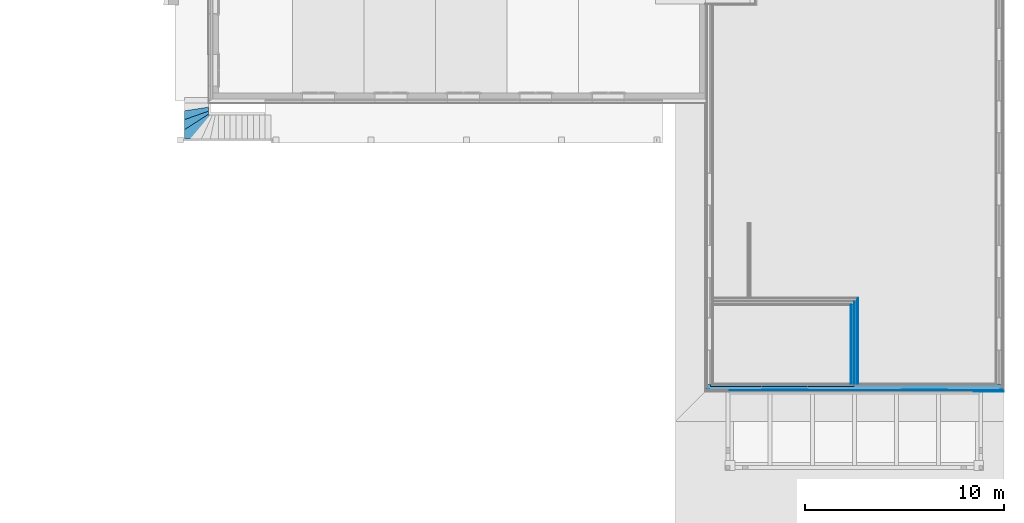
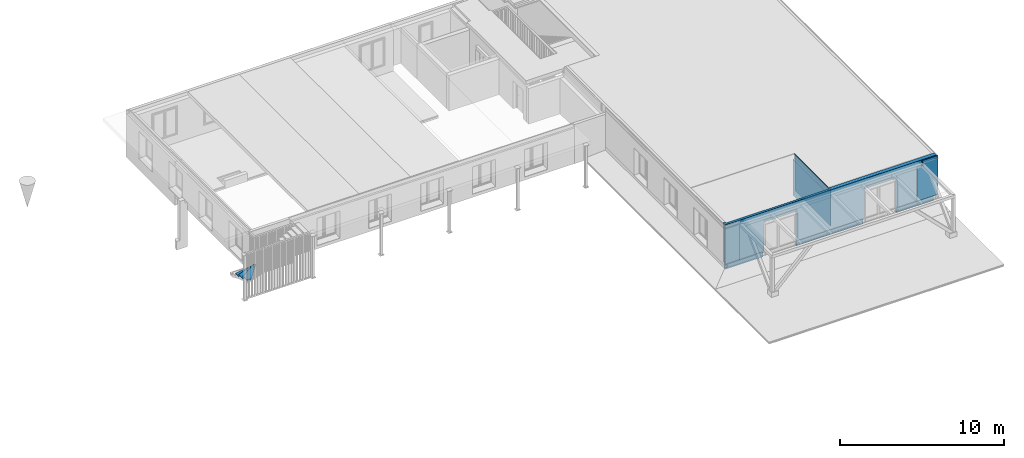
# One storey, part 10 of 20: 18 building element parts, 2 openings, 5 elements without a shape of their own.
"""IFC4 building model written with IfcOpenShell, lengths in millimetres."""

import ifcopenshell
import ifcopenshell.guid

model = None  # the IFC model being written
_history = None  # IfcOwnerHistory: only IFC2X3 demands one
_inside = {}  # id of a spatial element -> (the spatial element, [elements in it])
_under = {}  # id of a project, library or spatial element -> (it, [spatial elements below it])
_declared = {}  # id of a project -> (the project, [libraries it declares])
_typed = {}  # id of a type object -> (the type object, [elements of that type])
_made_of = {}  # id of a material, layer set ... -> (it, [elements and type objects made of it])


def new_model(schema):
    """Start an empty IFC model of exactly this schema.

    Asked for "IFC4X3", IfcOpenShell would pick the latest addendum, in which some entities
    have other attributes; the version numbers below select the first issue.
    IFC2X3 requires an IfcOwnerHistory on every rooted entity: one is made here for all.
    """
    global model, _history
    if schema == "IFC4X3":
        model = ifcopenshell.file(schema_version=(4, 3, 0, 0))
    else:
        model = ifcopenshell.file(schema=schema)
    _inside.clear()
    _under.clear()
    _declared.clear()
    _typed.clear()
    _made_of.clear()
    _history = None
    if model.schema == "IFC2X3":
        org = make("IfcOrganization", Name="unknown")
        user = make(
            "IfcPersonAndOrganization",
            ThePerson=make("IfcPerson", FamilyName="unknown"),
            TheOrganization=org,
        )
        app = make(
            "IfcApplication",
            ApplicationDeveloper=org,
            Version="unknown",
            ApplicationFullName="unknown",
            ApplicationIdentifier="unknown",
        )
        _history = make(
            "IfcOwnerHistory",
            OwningUser=user,
            OwningApplication=app,
            ChangeAction="ADDED",
            CreationDate=0,
        )
    return model


def make(cls, **values):
    """One entity of the class cls with the attributes given. An attribute that is None is left unset."""
    return model.create_entity(
        cls, **{name: value for name, value in values.items() if value is not None}
    )


def entity(cls, *values):
    """Any entity or typed value of the class cls, its attributes in the order of the schema. None: left unset."""
    e = model.create_entity(cls)
    for i, value in enumerate(values):
        if value is not None:
            e[i] = value
    return e


def rooted(cls, **values):
    """An entity with a GlobalId (a new one), such as an element, a storey or a relation."""
    return make(cls, GlobalId=ifcopenshell.guid.new(), OwnerHistory=_history, **values)


def si_unit(unit_type, name, prefix=None):
    """IfcSIUnit, for example si_unit("LENGTHUNIT", "METRE", prefix="MILLI")."""
    return make("IfcSIUnit", UnitType=unit_type, Prefix=prefix, Name=name)


def converted_unit(unit_type, name, factor, base, dimensions=None, offset=None):
    """IfcConversionBasedUnit, such as the inch: factor (a typed value) times the base unit."""
    return make(
        "IfcConversionBasedUnit"
        if offset is None
        else "IfcConversionBasedUnitWithOffset",
        ConversionOffset=offset,
        Dimensions=None
        if dimensions is None
        else entity("IfcDimensionalExponents", *dimensions),
        UnitType=unit_type,
        Name=name,
        ConversionFactor=make(
            "IfcMeasureWithUnit", ValueComponent=factor, UnitComponent=base
        ),
    )


def derived_unit(unit_type, elements):
    """IfcDerivedUnit: a product of units, each with its exponent."""
    return make(
        "IfcDerivedUnit",
        Elements=[
            make("IfcDerivedUnitElement", Unit=unit, Exponent=power)
            for unit, power in elements
        ],
        UnitType=unit_type,
    )


def assignment(units):
    """IfcUnitAssignment: the units of a project."""
    return None if units is None else make("IfcUnitAssignment", Units=units)


def point(xyz):
    """IfcCartesianPoint."""
    return None if xyz is None else make("IfcCartesianPoint", Coordinates=xyz)


def direction(xyz):
    """IfcDirection."""
    return None if xyz is None else make("IfcDirection", DirectionRatios=xyz)


def frame(location, z_axis=None, x_axis=None):
    """IfcAxis2Placement3D, a coordinate frame: its origin and axes. An axis left out is left unset."""
    return make(
        "IfcAxis2Placement3D",
        Location=point(location),
        Axis=direction(z_axis),
        RefDirection=direction(x_axis),
    )


def origin_with_axes():
    """The frame at (0, 0, 0) with the z axis (0, 0, 1) and the x axis (1, 0, 0) written out."""
    return frame((0.0, 0.0, 0.0), z_axis=(0.0, 0.0, 1.0), x_axis=(1.0, 0.0, 0.0))


def place(relative_to, where):
    """IfcLocalPlacement: puts the frame where relative to a parent placement (None: the world)."""
    return make(
        "IfcLocalPlacement", PlacementRelTo=relative_to, RelativePlacement=where
    )


def context(
    kind, dimensions, precision=None, world=None, true_north=None, identifier=None
):
    """IfcGeometricRepresentationContext, for example the 3D "Model" context."""
    return make(
        "IfcGeometricRepresentationContext",
        ContextIdentifier=identifier,
        ContextType=kind,
        CoordinateSpaceDimension=dimensions,
        Precision=precision,
        WorldCoordinateSystem=world,
        TrueNorth=true_north,
    )


def subcontext(parent, identifier, kind, view, scale=None):
    """IfcGeometricRepresentationSubContext, for example "Body" below "Model"."""
    return make(
        "IfcGeometricRepresentationSubContext",
        ContextIdentifier=identifier,
        ContextType=kind,
        ParentContext=parent,
        TargetScale=scale,
        TargetView=view,
    )


def project(units=None, contexts=None):
    """IfcProject with its units and contexts."""
    return rooted(
        "IfcProject",
        Name="project",
        RepresentationContexts=contexts,
        UnitsInContext=assignment(units),
    )


def spatial(cls, under=None, at=None, **own):
    """A site, building, storey or space (cls), placed at a placement, below another one or the project."""
    s = rooted(cls, ObjectPlacement=at, **own)
    if under is not None:
        _under.setdefault(under.id(), (under, []))[1].append(s)
    return s


def point_list(points):
    """IfcCartesianPointList2D or 3D."""
    cls = (
        "IfcCartesianPointList2D" if len(points[0]) == 2 else "IfcCartesianPointList3D"
    )
    return make(cls, CoordList=points)


def polygons(points, faces, closed=None, point_numbers=None):
    """IfcPolygonalFaceSet: a face is its outer loop, then its inner loops; points numbered from 1."""
    made = []
    for loops in faces:
        if len(loops) == 1:
            made.append(make("IfcIndexedPolygonalFace", CoordIndex=loops[0]))
        else:
            made.append(
                make(
                    "IfcIndexedPolygonalFaceWithVoids",
                    CoordIndex=loops[0],
                    InnerCoordIndices=loops[1:],
                )
            )
    return make(
        "IfcPolygonalFaceSet",
        Coordinates=point_list(points),
        Closed=closed,
        Faces=made,
        PnIndex=point_numbers,
    )


def shape(context_of_items, identifier, shape_type, items):
    """IfcShapeRepresentation: the items that make up one representation, for example the "Body"."""
    return make(
        "IfcShapeRepresentation",
        ContextOfItems=context_of_items,
        RepresentationIdentifier=identifier,
        RepresentationType=shape_type,
        Items=items,
    )


def material(Name=None, Category=None):
    """IfcMaterial."""
    return make("IfcMaterial", Name=Name, Category=Category)


def made_of(thing, what):
    """Note that an element or type object is made of a material, layer set ...; save() writes the relation."""
    if what is not None:
        _made_of.setdefault(what.id(), (what, []))[1].append(thing)
    return thing


def type_object(cls, material=None, **own):
    """A type object (cls), such as IfcWallType, which elements share."""
    return made_of(rooted(cls, **own), material)


def element(
    cls,
    number,
    at=None,
    inside=None,
    cuts=None,
    type_object=None,
    material=None,
    context=None,
    identifier="Body",
    shape_type=None,
    held_by="IfcProductDefinitionShape",
    body=None,
    shapes=None,
    **own,
):
    """One element of the class cls, such as IfcWall. Its Tag is "e" and its number.

    at: its placement. inside: the storey or other place that contains it. cuts: it is an
    opening in that element (IfcRelVoidsElement). A single representation is given by context,
    identifier, shape_type and body (its items); several are given by shapes. held_by: the class
    of the entity that holds the representations. save() writes the other relations.
    """
    e = rooted(cls, Tag="e%d" % number, ObjectPlacement=at, **own)
    if body is not None:
        shapes = [shape(context, identifier, shape_type, body)]
    if shapes is not None:
        e.Representation = make(held_by, Representations=shapes)
    if inside is not None:
        _inside.setdefault(inside.id(), (inside, []))[1].append(e)
    if cuts is not None:
        rooted(
            "IfcRelVoidsElement", RelatingBuildingElement=cuts, RelatedOpeningElement=e
        )
    if type_object is not None:
        _typed.setdefault(type_object.id(), (type_object, []))[1].append(e)
    return made_of(e, material)


def aggregate(whole, parts):
    """IfcRelAggregates: a whole, such as a stair, and the parts it consists of."""
    return rooted("IfcRelAggregates", RelatingObject=whole, RelatedObjects=parts)


def save(model, path):
    """Write the relations noted so far, then the file.

    IfcRelAggregates (storeys below a building ...), IfcRelContainedInSpatialStructure (elements
    in a storey), IfcRelDefinesByType, IfcRelAssociatesMaterial and IfcRelDeclares: one each for
    every whole, place, type object, material and project.
    """
    for whole, parts in _under.values():
        aggregate(whole, parts)
    for where, things in _inside.values():
        rooted(
            "IfcRelContainedInSpatialStructure",
            RelatedElements=things,
            RelatingStructure=where,
        )
    for kind, things in _typed.values():
        rooted("IfcRelDefinesByType", RelatedObjects=things, RelatingType=kind)
    for what, things in _made_of.values():
        rooted("IfcRelAssociatesMaterial", RelatedObjects=things, RelatingMaterial=what)
    for by, libraries in _declared.values():
        rooted("IfcRelDeclares", RelatingContext=by, RelatedDefinitions=libraries)
    model.write(path)


model = new_model("IFC4")

# Units and contexts
model_context = context("Model", 3, precision=0.01, world=origin_with_axes(), true_north=direction((0.0, 1.0)))
body_context = subcontext(model_context, "Body", "Model", "MODEL_VIEW")
ifc_project = project(units=[si_unit("LENGTHUNIT", "METRE", prefix="MILLI"), si_unit("AREAUNIT", "SQUARE_METRE"), si_unit("VOLUMEUNIT", "CUBIC_METRE"), converted_unit("PLANEANGLEUNIT", "DEGREE", entity("IfcPlaneAngleMeasure", 0.0174532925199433), si_unit("PLANEANGLEUNIT", "RADIAN"), dimensions=[0, 0, 0, 0, 0, 0, 0]), converted_unit("TIMEUNIT", "Year", entity("IfcTimeMeasure", 31557600.0), si_unit("TIMEUNIT", "SECOND"), dimensions=[0, 0, 1, 0, 0, 0, 0]), si_unit("MASSUNIT", "GRAM", prefix="KILO"), si_unit("THERMODYNAMICTEMPERATUREUNIT", "DEGREE_CELSIUS"), si_unit("LUMINOUSINTENSITYUNIT", "LUMEN"), si_unit("ENERGYUNIT", "JOULE", prefix="MEGA"), derived_unit("THERMALCONDUCTANCEUNIT", [(si_unit("POWERUNIT", "WATT"), 1), (si_unit("LENGTHUNIT", "METRE"), -1), (si_unit("THERMODYNAMICTEMPERATUREUNIT", "KELVIN"), -1)]), derived_unit("SPECIFICHEATCAPACITYUNIT", [(si_unit("ENERGYUNIT", "JOULE"), 1), (si_unit("MASSUNIT", "GRAM", prefix="KILO"), -1), (si_unit("THERMODYNAMICTEMPERATUREUNIT", "KELVIN"), -1)]), derived_unit("MASSDENSITYUNIT", [(si_unit("MASSUNIT", "GRAM", prefix="KILO"), 1), (si_unit("VOLUMEUNIT", "CUBIC_METRE"), -1)])], contexts=[model_context])

# Site, building, storey
site_placement = place(None, origin_with_axes())
site = spatial("IfcSite", under=ifc_project, at=site_placement, Name="Gelände", CompositionType="ELEMENT")
building_placement = place(site_placement, origin_with_axes())
building = spatial("IfcBuilding", under=site, at=building_placement, Name="Gebäude", CompositionType="ELEMENT")
storey_placement = place(building_placement, frame((0.0, 0.0, 5.198845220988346e-05), z_axis=(0.0, 0.0, 1.0), x_axis=(1.0, 0.0, 0.0)))
storey = spatial("IfcBuildingStorey", under=building, at=storey_placement, Name="EG", CompositionType="ELEMENT", Elevation=0.0)

# Curtain wall, building element parts
curtain_wall_type = type_object("IfcCurtainWallType", Name="Fassade Typ 02 - Vertikale Schalung 71", PredefinedType="NOTDEFINED")
curtain_wall_placement = place(storey_placement, frame((32928.99744477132, 8447.597281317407, 500.0000000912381), z_axis=(0.0, 0.0, 1.0), x_axis=(-1.0, 0.0, 0.0)))
curtain_wall = element("IfcCurtainWall", 1, at=curtain_wall_placement, inside=storey, type_object=curtain_wall_type, Name="Wand-014", PredefinedType="NOTDEFINED")
ifc_material_1 = material(Name="Falzschalung vertikal")
building_element_part_1_placement = place(curtain_wall_placement, origin_with_axes())
building_element_part_1 = element("IfcBuildingElementPart", 2, at=building_element_part_1_placement, material=ifc_material_1, Name="Falzschalung vertikal", PredefinedType="NOTDEFINED", context=body_context, shape_type="Tessellation", body=[
    polygons([(1500.000000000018, 0.0, 2519.999947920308), (1046.000025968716, 0.0, 2519.999947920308), (1046.000025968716, -21.00000000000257, 2519.999947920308), (1500.000000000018, -21.00000000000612, 2519.999947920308), (1500.000000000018, 0.0, 0.0), (0.0, 0.0, 0.0), (0.0, 0.0, 2720.632201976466), (1041.000001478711, 0.0, 2720.632202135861), (1041.000001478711, 0.0, 2723.46245979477), (0.0, 0.0, 2723.462459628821), (0.0, 0.0, 2899.999947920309), (1117.000025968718, 0.0, 2899.999947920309), (1117.000025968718, 0.0, 2719.999947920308), (1046.000025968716, 0.0, 2719.999947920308), (1046.000025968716, -21.00000000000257, 2719.999947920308), (1117.000025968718, -21.0000000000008, 2719.999947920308), (1117.000025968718, -21.0000000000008, 2899.999947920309), (0.0, -20.99999999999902, 2899.999947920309), (0.0, -20.99999999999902, 2723.462459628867), (21.0000016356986, -21.00000000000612, 2725.620760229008), (1041.00000147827, -21.00000000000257, 2725.620760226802), (1041.00000147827, -21.00000000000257, 2722.705262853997), (21.00000163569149, -21.00000000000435, 2722.705262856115), (0.0, -21.0000000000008, 2720.632201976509), (0.0, -21.0000000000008, 0.0), (1500.000000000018, -21.0000000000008, 0.0)], [[[1, 2, 3, 4]], [[1, 5, 6, 7, 8, 9, 10, 11, 12, 13, 14, 2]], [[15, 3, 2, 14]], [[4, 3, 15, 16, 17, 18, 19, 20, 21, 22, 23, 24, 25, 26]], [[5, 1, 4, 26]], [[5, 26, 25, 6]], [[6, 25, 24, 7]], [[22, 8, 7, 23]], [[9, 8, 22, 21]], [[9, 21, 20, 10]], [[18, 11, 10, 19]], [[17, 12, 11, 18]], [[16, 13, 12, 17]], [[13, 16, 15, 14]], [[10, 20, 19]], [[7, 24, 23]]], closed=True),
])
ifc_material_2 = material(Name="Lattenrost vertikal")
building_element_part_2_placement = place(curtain_wall_placement, origin_with_axes())
building_element_part_2 = element("IfcBuildingElementPart", 3, at=building_element_part_2_placement, material=ifc_material_2, Name="Lattenrost vertikal", PredefinedType="NOTDEFINED", context=body_context, shape_type="Tessellation", body=[
    polygons([(1500.000000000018, -45.99999999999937, 0.0), (1500.000000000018, -45.99999999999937, 2519.999947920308), (1500.000000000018, -70.99999999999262, 2519.999947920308), (1500.000000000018, -70.99999999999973, 0.0), (1046.000025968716, -45.99999999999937, 2519.999947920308), (45.99999999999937, -45.99999999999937, 0.0), (45.99999999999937, -45.99999999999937, 2725.173192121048), (1041.000001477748, -45.99999999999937, 2725.173192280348), (1041.000001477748, -45.99999999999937, 2728.190165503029), (45.99999999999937, -45.99999999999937, 2728.19016533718), (45.99999999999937, -45.99999999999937, 2899.999947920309), (1117.000025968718, -45.99999999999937, 2899.999947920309), (1117.000025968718, -45.99999999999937, 2719.999947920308), (1046.000025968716, -45.99999999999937, 2719.999947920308), (1046.000025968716, -70.99999999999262, 2519.999947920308), (1046.000025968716, -70.99999999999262, 2719.999947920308), (1117.000025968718, -70.99999999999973, 2719.999947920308), (1117.000025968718, -70.99999999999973, 2899.999947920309), (45.99999999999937, -70.99999999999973, 2899.999947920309), (45.99999999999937, -70.99999999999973, 2728.190165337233), (68.30000031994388, -70.99999999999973, 2730.482074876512), (68.30000031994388, -70.99999999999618, 2760.650824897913), (71.0000014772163, -70.99999984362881, 2760.650824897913), (1041.000001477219, -70.99999986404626, 2760.650824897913), (1041.000001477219, -70.99999986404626, 2727.641121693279), (71.0000014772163, -70.99999984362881, 2727.641121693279), (45.99999999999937, -70.99999999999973, 2725.1731921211), (45.99999999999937, -70.99999999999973, 0.0), (1041.000001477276, -68.29999870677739, 2760.650824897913), (1041.000001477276, -68.29999870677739, 2730.482074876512), (68.30000032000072, -68.2999986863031, 2730.482074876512), (68.30000032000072, -68.2999986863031, 2760.650824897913)], [[[1, 2, 3, 4]], [[5, 2, 1, 6, 7, 8, 9, 10, 11, 12, 13, 14]], [[2, 5, 15, 3]], [[4, 3, 15, 16, 17, 18, 19, 20, 21, 22, 23, 24, 25, 26, 27, 28]], [[1, 4, 28, 6]], [[6, 28, 27, 7]], [[25, 8, 7, 26]], [[8, 25, 24, 29, 30, 9]], [[9, 30, 31, 10]], [[19, 11, 10, 20]], [[18, 12, 11, 19]], [[13, 12, 18, 17]], [[14, 13, 17, 16]], [[5, 14, 16, 15]], [[31, 21, 20, 10]], [[31, 32, 22, 21]], [[29, 24, 23, 22, 32]], [[7, 27, 26]], [[30, 29, 32, 31]]], closed=True),
])
ifc_material_3 = material(Name="Lattenrost horizontal")
building_element_part_3_placement = place(curtain_wall_placement, origin_with_axes())
building_element_part_3 = element("IfcBuildingElementPart", 4, at=building_element_part_3_placement, material=ifc_material_3, Name="Lattenrost horizontal", PredefinedType="NOTDEFINED", context=body_context, shape_type="Tessellation", body=[
    polygons([(1117.000025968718, -45.99999999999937, 2719.999947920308), (1117.000025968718, -45.99999999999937, 2899.999947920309), (21.0000000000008, -45.99999999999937, 2899.999947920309), (21.0000000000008, -45.99999999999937, 2725.620760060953), (46.00000163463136, -46.00000000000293, 2728.190165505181), (1041.000001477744, -45.99999999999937, 2728.190165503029), (1041.000001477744, -45.99999999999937, 2725.173192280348), (46.00000163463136, -46.0000000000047, 2725.173192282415), (21.0000000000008, -45.99999999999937, 2722.705262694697), (21.0000000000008, -45.99999999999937, 0.0), (1500.000000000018, -45.99999999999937, 0.0), (1500.000000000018, -45.99999999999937, 2519.999947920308), (1046.000025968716, -45.99999999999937, 2519.999947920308), (1046.000025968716, -45.99999999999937, 2719.999947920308), (1117.000025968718, -21.0000000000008, 2719.999947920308), (1117.000025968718, -21.0000000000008, 2899.999947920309), (21.0000000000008, -20.99999999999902, 2899.999947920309), (21.00000081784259, -20.999999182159, 2725.620760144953), (1041.000001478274, -21.0000000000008, 2725.620760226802), (1041.000001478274, -21.0000000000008, 2722.705262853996), (21.00000081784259, -20.999999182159, 2722.70526277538), (21.0000000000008, -21.0000000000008, 0.0), (1500.000000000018, -21.0000000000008, 0.0), (1500.000000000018, -21.0000000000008, 2519.999947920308), (1046.000025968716, -21.0000000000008, 2519.999947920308), (1046.000025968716, -21.0000000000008, 2719.999947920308)], [[[1, 2, 3, 4, 5, 6, 7, 8, 9, 10, 11, 12, 13, 14]], [[1, 15, 16, 2]], [[17, 3, 2, 16]], [[18, 4, 3, 17]], [[5, 4, 18]], [[5, 18, 19, 6]], [[7, 6, 19, 20]], [[21, 8, 7, 20]], [[21, 9, 8]], [[9, 21, 22, 10]], [[11, 10, 22, 23]], [[24, 12, 11, 23]], [[13, 12, 24, 25]], [[14, 13, 25, 26]], [[26, 15, 1, 14]], [[15, 26, 25, 24, 23, 22, 21, 20, 19, 18, 17, 16]]], closed=True),
])
aggregate(curtain_wall, [building_element_part_1, building_element_part_2, building_element_part_3])

# Wall, building element parts
wall_type_1 = type_object("IfcWallType", Name="Trennwand Typ 01 186", PredefinedType="NOTDEFINED")
wall_1_placement = place(storey_placement, frame((25614.99744456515, 8826.597281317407, 500.0), z_axis=(0.0, 0.0, 1.0), x_axis=(0.0, 1.0, 0.0)))
wall_1 = element("IfcWall", 5, at=wall_1_placement, inside=storey, type_object=wall_type_1, Name="Wand-014", PredefinedType="NOTDEFINED")
ifc_material_4 = material(Name="Dämmung Innen")
building_element_part_4_placement = place(wall_1_placement, origin_with_axes())
building_element_part_4 = element("IfcBuildingElementPart", 6, at=building_element_part_4_placement, material=ifc_material_4, Name="Dämmung Innen", PredefinedType="NOTDEFINED", context=body_context, shape_type="Tessellation", body=[
    polygons([(4148.000000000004, 185.9999999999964, 0.0), (4148.000000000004, 165.9999999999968, 0.0), (0.0, 166.0000000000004, 0.0), (0.0, 185.9999999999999, 0.0), (4148.000000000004, 185.9999999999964, 2899.999948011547), (4148.000000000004, 165.9999999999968, 2899.999948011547), (0.0, 166.0000000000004, 2899.999948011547), (0.0, 185.9999999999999, 2899.999948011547)], [[[1, 2, 3, 4]], [[2, 1, 5, 6]], [[2, 6, 7, 3]], [[8, 4, 3, 7]], [[5, 1, 4, 8]], [[6, 5, 8, 7]]], closed=True),
])
ifc_material_5 = material(Name="Ständer Konstruktion gedämmt")
building_element_part_5_placement = place(wall_1_placement, origin_with_axes())
building_element_part_5 = element("IfcBuildingElementPart", 7, at=building_element_part_5_placement, material=ifc_material_5, Name="Ständer Konstruktion gedämmt", PredefinedType="NOTDEFINED", context=body_context, shape_type="Tessellation", body=[
    polygons([(4168.000000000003, 165.9999999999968, 2643.999948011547), (4168.000000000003, 45.99999999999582, 2643.999948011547), (4168.000000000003, 45.99999999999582, 0.0), (4168.000000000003, 165.9999999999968, 0.0), (0.1653305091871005, 45.99999999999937, 2643.999948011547), (4167.989723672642, 155.9999840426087, 2643.999948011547), (0.05611607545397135, 151.6931928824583, 2643.999948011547), (0.1653305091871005, 45.99999999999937, 2899.999948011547), (0.0, 45.99999999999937, 2899.999948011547), (0.0, 45.99999999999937, 0.0), (0.0, 166.0000000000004, 0.0), (0.0, 166.0000000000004, 2899.999948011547), (4168.000000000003, 165.9999999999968, 2899.999948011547), (4167.989723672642, 155.9999840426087, 2899.999948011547), (0.05611607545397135, 151.6931928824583, 2899.999948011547)], [[[1, 2, 3, 4]], [[5, 2, 1, 6, 7]], [[5, 8, 9, 10, 3, 2]], [[4, 3, 10, 11]], [[1, 4, 11, 12, 13]], [[6, 1, 13, 14]], [[7, 6, 14, 15]], [[5, 7, 15, 8]], [[14, 13, 12, 9, 8, 15]], [[12, 11, 10, 9]]], closed=True),
])
ifc_material_6 = material(Name="Gipsfaserplatte GFP")
building_element_part_6_placement = place(wall_1_placement, origin_with_axes())
building_element_part_6 = element("IfcBuildingElementPart", 8, at=building_element_part_6_placement, material=ifc_material_6, Name="Gipsfaserplatte GFP", PredefinedType="NOTDEFINED", context=body_context, shape_type="Tessellation", body=[
    polygons([(4288.000000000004, 45.99999999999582, 2643.999948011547), (4288.000000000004, 27.99999999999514, 2643.999948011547), (4288.000000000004, 27.99999999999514, 0.0), (4288.000000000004, 45.99999999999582, 0.0), (0.1839301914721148, 27.99999999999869, 2643.999948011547), (0.1653305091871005, 45.99999999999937, 2643.999948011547), (0.1839301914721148, 27.99999999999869, 2899.999948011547), (0.0, 27.99999999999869, 2899.999948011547), (0.0, 27.99999999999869, 0.0), (0.0, 45.99999999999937, 0.0), (0.0, 45.99999999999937, 2899.999948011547), (0.1653305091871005, 45.99999999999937, 2899.999948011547)], [[[1, 2, 3, 4]], [[5, 2, 1, 6]], [[5, 7, 8, 9, 3, 2]], [[4, 3, 9, 10]], [[6, 1, 4, 10, 11, 12]], [[5, 6, 12, 7]], [[7, 12, 11, 8]], [[11, 10, 9, 8]]], closed=True),
])
ifc_material_7 = material(Name="Gipskartonplatte GKP")
building_element_part_7_placement = place(wall_1_placement, origin_with_axes())
building_element_part_7 = element("IfcBuildingElementPart", 9, at=building_element_part_7_placement, material=ifc_material_7, Name="Gipskartonplatte GKP", PredefinedType="NOTDEFINED", context=body_context, shape_type="Tessellation", body=[
    polygons([(4306.000000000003, 27.99999999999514, 2643.999948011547), (4306.000000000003, 9.99999999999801, 2643.999948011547), (4306.000000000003, 9.99999999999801, 0.0), (4306.000000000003, 27.99999999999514, 0.0), (0.2025298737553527, 10.00000000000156, 2643.999948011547), (0.1839301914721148, 27.99999999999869, 2643.999948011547), (0.2025298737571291, 10.00000000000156, 2899.999948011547), (0.0, 10.00000000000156, 2899.999948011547), (0.0, 10.00000000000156, 0.0), (0.0, 27.99999999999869, 0.0), (0.0, 27.99999999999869, 2899.999948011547), (0.1839301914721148, 27.99999999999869, 2899.999948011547)], [[[1, 2, 3, 4]], [[5, 2, 1, 6]], [[5, 7, 8, 9, 3, 2]], [[4, 3, 9, 10]], [[6, 1, 4, 10, 11, 12]], [[5, 6, 12, 7]], [[7, 12, 11, 8]], [[11, 10, 9, 8]]], closed=True),
])
ifc_material_8 = material(Name="Kalkzementputz Aussen")
building_element_part_8_placement = place(wall_1_placement, origin_with_axes())
building_element_part_8 = element("IfcBuildingElementPart", 10, at=building_element_part_8_placement, material=ifc_material_8, Name="Kalkzementputz Aussen", PredefinedType="NOTDEFINED", context=body_context, shape_type="Tessellation", body=[
    polygons([(4324.000000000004, 9.99999999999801, 2643.999948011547), (4324.000000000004, 0.0, 2643.999948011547), (4324.000000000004, 0.0, 0.0), (4324.000000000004, 9.99999999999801, 0.0), (0.2128630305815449, 0.0, 2643.999948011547), (0.2025298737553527, 10.00000000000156, 2643.999948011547), (0.2128630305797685, 0.0, 2899.999948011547), (0.0, 0.0, 2899.999948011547), (0.0, 0.0, 0.0), (0.0, 10.00000000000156, 0.0), (0.0, 10.00000000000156, 2899.999948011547), (0.2025298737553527, 10.00000000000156, 2899.999948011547)], [[[1, 2, 3, 4]], [[5, 2, 1, 6]], [[5, 7, 8, 9, 3, 2]], [[4, 3, 9, 10]], [[6, 1, 4, 10, 11, 12]], [[5, 6, 12, 7]], [[7, 12, 11, 8]], [[11, 10, 9, 8]]], closed=True),
])
aggregate(wall_1, [building_element_part_4, building_element_part_5, building_element_part_6, building_element_part_7, building_element_part_8])

wall_2_placement = place(storey_placement, frame((25242.99744456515, 8826.597281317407, 500.0), z_axis=(0.0, 0.0, 1.0), x_axis=(0.0, 1.0, 0.0)))
wall_2 = element("IfcWall", 11, at=wall_2_placement, inside=storey, type_object=wall_type_1, Name="Wand-014", PredefinedType="NOTDEFINED")
building_element_part_9_placement = place(wall_2_placement, origin_with_axes())
building_element_part_9 = element("IfcBuildingElementPart", 12, at=building_element_part_9_placement, material=ifc_material_7, Name="Gipskartonplatte GKP", PredefinedType="NOTDEFINED", context=body_context, shape_type="Tessellation", body=[
    polygons([(3972.000000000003, -10.00000000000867, 2643.999948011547), (3972.000000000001, -28.0000000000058, 2643.999948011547), (3972.000000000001, -28.0000000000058, 0.0), (3972.000000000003, -10.00000000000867, 0.0), (0.0, -27.99999999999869, 2643.999948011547), (0.0, -10.00000000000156, 2643.999948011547), (0.0, -27.99999999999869, 0.0), (0.0, -10.00000000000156, 0.0)], [[[1, 2, 3, 4]], [[5, 2, 1, 6]], [[2, 5, 7, 3]], [[4, 3, 7, 8]], [[6, 1, 4, 8]], [[5, 6, 8, 7]]], closed=True),
])
building_element_part_10_placement = place(wall_2_placement, origin_with_axes())
building_element_part_10 = element("IfcBuildingElementPart", 13, at=building_element_part_10_placement, material=ifc_material_6, Name="Gipsfaserplatte GFP", PredefinedType="NOTDEFINED", context=body_context, shape_type="Tessellation", body=[
    polygons([(3990.000000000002, -28.0000000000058, 2643.999948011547), (3990.000000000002, -46.00000000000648, 2643.999948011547), (3990.000000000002, -46.00000000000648, 0.0), (3990.000000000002, -28.0000000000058, 0.0), (0.0, -45.99999999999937, 2643.999948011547), (0.0, -27.99999999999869, 2643.999948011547), (0.0, -45.99999999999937, 0.0), (0.0, -27.99999999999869, 0.0)], [[[1, 2, 3, 4]], [[5, 2, 1, 6]], [[2, 5, 7, 3]], [[4, 3, 7, 8]], [[6, 1, 4, 8]], [[5, 6, 8, 7]]], closed=True),
])
building_element_part_11_placement = place(wall_2_placement, origin_with_axes())
building_element_part_11 = element("IfcBuildingElementPart", 14, at=building_element_part_11_placement, material=ifc_material_5, Name="Ständer Konstruktion gedämmt", PredefinedType="NOTDEFINED", context=body_context, shape_type="Tessellation", body=[
    polygons([(4008.000000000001, -46.00000000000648, 2643.999948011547), (4008.000000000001, -166.0000000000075, 2643.999948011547), (4008.000000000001, -166.0000000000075, 0.0), (4008.000000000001, -46.00000000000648, 0.0), (0.0, -166.0000000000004, 2643.999948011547), (0.0, -45.99999999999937, 2643.999948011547), (0.0, -166.0000000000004, 0.0), (0.0, -45.99999999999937, 0.0)], [[[1, 2, 3, 4]], [[5, 2, 1, 6]], [[2, 5, 7, 3]], [[4, 3, 7, 8]], [[6, 1, 4, 8]], [[5, 6, 8, 7]]], closed=True),
])
building_element_part_12_placement = place(wall_2_placement, origin_with_axes())
building_element_part_12 = element("IfcBuildingElementPart", 15, at=building_element_part_12_placement, material=ifc_material_4, Name="Dämmung Innen", PredefinedType="NOTDEFINED", context=body_context, shape_type="Tessellation", body=[
    polygons([(4128.000000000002, -186.0000000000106, 2899.999948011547), (4128.000000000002, -166.000000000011, 2899.999948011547), (0.0, -166.0000000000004, 2899.999948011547), (0.0, -185.9999999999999, 2899.999948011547), (4128.000000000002, -186.0000000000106, 0.0), (4128.000000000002, -166.000000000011, 0.0), (0.0, -166.0000000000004, 0.0), (0.0, -185.9999999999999, 0.0)], [[[1, 2, 3, 4]], [[2, 1, 5, 6]], [[2, 6, 7, 3]], [[8, 4, 3, 7]], [[5, 1, 4, 8]], [[6, 5, 8, 7]]], closed=True),
])
building_element_part_13_placement = place(wall_2_placement, origin_with_axes())
building_element_part_13 = element("IfcBuildingElementPart", 16, at=building_element_part_13_placement, material=ifc_material_8, Name="Kalkzementputz Aussen", PredefinedType="NOTDEFINED", context=body_context, shape_type="Tessellation", body=[
    polygons([(3962.000000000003, 0.0, 2643.999948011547), (3962.000000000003, -10.00000000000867, 2643.999948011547), (3962.000000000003, -10.00000000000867, 0.0), (3962.000000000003, 0.0, 0.0), (0.0, -10.00000000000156, 2643.999948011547), (0.0, 0.0, 2643.999948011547), (0.0, -10.00000000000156, 0.0), (0.0, 0.0, 0.0)], [[[1, 2, 3, 4]], [[5, 2, 1, 6]], [[2, 5, 7, 3]], [[4, 3, 7, 8]], [[6, 1, 4, 8]], [[5, 6, 8, 7]]], closed=True),
])
aggregate(wall_2, [building_element_part_9, building_element_part_10, building_element_part_11, building_element_part_12, building_element_part_13])

# Stair, building element parts
stair_type = type_object("IfcStairType", Name="Treppentyp 01 - Metall - Holz", PredefinedType="NOTDEFINED")
stair_placement = place(storey_placement, frame((-8346.588154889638, 21322.51054564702, 0.0), z_axis=(0.0, 0.0, 1.0), x_axis=(0.0, 1.0, 0.0)))
stair = element("IfcStair", 17, at=stair_placement, inside=storey, type_object=stair_type, Name="Treppe-001", PredefinedType="NOTDEFINED")
ifc_material_9 = material(Name="Massivholz")
building_element_part_14_placement = place(stair_placement, origin_with_axes())
building_element_part_14 = element("IfcBuildingElementPart", 18, at=building_element_part_14_placement, material=ifc_material_9, Name="Massivholz", PredefinedType="NOTDEFINED", context=body_context, shape_type="Tessellation", body=[
    polygons([(1257.450027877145, -1275.583973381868, 642.3529289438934), (835.1723102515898, -75.58397338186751, 642.3529289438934), (835.1723102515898, -75.58397338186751, 682.3529289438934), (1257.450027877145, -1275.583973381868, 682.3529289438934), (1070.108489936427, -1275.583973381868, 642.3529289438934), (296.8953001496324, -75.58397338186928, 642.3529289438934), (296.8953001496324, -75.58397338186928, 682.3529289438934), (1070.108489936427, -1275.583973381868, 682.3529289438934)], [[[1, 2, 3, 4]], [[1, 5, 6, 2]], [[2, 6, 7, 3]], [[4, 3, 7, 8]], [[5, 1, 4, 8]], [[6, 5, 8, 7]]], closed=True),
])
building_element_part_15_placement = place(stair_placement, origin_with_axes())
building_element_part_15 = element("IfcBuildingElementPart", 19, at=building_element_part_15_placement, material=ifc_material_9, Name="Massivholz", PredefinedType="NOTDEFINED", context=body_context, shape_type="Tessellation", body=[
    polygons([(1105.796873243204, -1275.583973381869, 812.9411611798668), (332.5836965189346, -75.58397338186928, 812.9411611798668), (332.5836965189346, -75.58397338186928, 852.9411611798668), (1105.796873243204, -1275.583973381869, 852.9411611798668), (1035.086195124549, -1275.583973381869, 812.9411611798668), (1035.086195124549, -1385.395884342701, 812.9411611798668), (-164.9138048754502, -382.2756219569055, 812.9411611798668), (-164.9138048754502, -75.58397338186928, 812.9411611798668), (-164.9138048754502, -75.58397338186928, 852.9411611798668), (-164.9138048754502, -382.2756219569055, 852.9411611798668), (1035.086195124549, -1385.395884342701, 852.9411611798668), (1035.086195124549, -1275.583973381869, 852.9411611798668)], [[[1, 2, 3, 4]], [[1, 5, 6, 7, 8, 2]], [[2, 8, 9, 3]], [[4, 3, 9, 10, 11, 12]], [[5, 1, 4, 12]], [[6, 5, 12, 11]], [[7, 6, 11, 10]], [[8, 7, 10, 9]]], closed=True),
])
building_element_part_16_placement = place(stair_placement, origin_with_axes())
building_element_part_16 = element("IfcBuildingElementPart", 20, at=building_element_part_16_placement, material=ifc_material_9, Name="Massivholz", PredefinedType="NOTDEFINED", context=body_context, shape_type="Tessellation", body=[
    polygons([(1430.438123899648, -1275.583973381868, 471.7646967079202), (1246.542214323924, -75.58397338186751, 471.7646967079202), (1246.542214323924, -75.58397338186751, 511.7646967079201), (1430.438123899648, -1275.583973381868, 511.7646967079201), (1225.646743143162, -1275.583973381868, 471.7646967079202), (803.369022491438, -75.58397338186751, 471.7646967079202), (803.369022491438, -75.58397338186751, 511.7646967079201), (1225.646743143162, -1275.583973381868, 511.7646967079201)], [[[1, 2, 3, 4]], [[1, 5, 6, 2]], [[2, 6, 7, 3]], [[4, 3, 7, 8]], [[5, 1, 4, 8]], [[6, 5, 8, 7]]], closed=True),
])
aggregate(stair, [building_element_part_14, building_element_part_15, building_element_part_16])

# Wall, openings, building element parts
wall_type_2 = type_object("IfcWallType", Name="Aussenwand Typ 01 318", PredefinedType="NOTDEFINED")
wall_3_placement = place(storey_placement, frame((32857.99744477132, 8518.597281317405, 0.0), z_axis=(0.0, 0.0, 1.0), x_axis=(-1.0, 0.0, 0.0)))
wall_3 = element("IfcWall", 21, at=wall_3_placement, inside=storey, type_object=wall_type_2, Name="Wand-014", PredefinedType="NOTDEFINED")
opening_1_placement = place(wall_3_placement, frame((10942.33333333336, 0.0, 210.0), z_axis=(0.0, 0.0, 1.0), x_axis=(1.0, 0.0, 0.0)))
element("IfcOpeningElement", 22, at=opening_1_placement, cuts=wall_3, Name="Fenster-004", context=body_context, identifier="Reference", shape_type="Tessellation", body=[
    polygons([(-1166.0, -249.9999999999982, 2331.0), (1166.0, -250.0, 2331.0), (1166.0, 1.000000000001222, 2331.0), (-1166.0, 1.000000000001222, 2331.0), (1145.0, -150.0000000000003, 2331.0), (-1145.0, -150.0000000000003, 2331.0), (-1145.0, 0.0, 2331.0), (1145.0, 0.0, 2331.0), (-1166.0, -250.0, -210.0), (-1266.000000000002, -250.0, -210.0), (-1266.000000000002, -250.0, 2431.0), (1266.000000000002, -250.0, 2431.0), (1266.000000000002, -250.0000000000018, -210.0), (1166.0, -250.0000000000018, -210.0), (1166.0, 1.000000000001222, -210.0), (-1166.0, 1.000000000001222, -210.0), (1145.0, -150.0000000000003, 2600.0), (-1145.0, -150.0000000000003, 2600.0), (-1145.0, 0.0, 2600.0), (1145.0, 0.0, 2600.0), (1266.000000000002, -319.0000000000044, -210.0), (-1266.000000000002, -319.0000000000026, -210.0), (-1266.000000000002, -319.0000000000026, 2431.0), (1266.000000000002, -319.0000000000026, 2431.0)], [[[1, 2, 3, 4], [5, 6, 7, 8]], [[2, 1, 9, 10, 11, 12, 13, 14]], [[2, 14, 15, 3]], [[3, 15, 16, 4]], [[9, 1, 4, 16]], [[6, 5, 17, 18]], [[7, 6, 18, 19]], [[8, 7, 19, 20]], [[5, 8, 20, 17]], [[9, 14, 13, 21, 22, 10]], [[11, 10, 22, 23]], [[12, 11, 23, 24]], [[13, 12, 24, 21]], [[14, 9, 16, 15]], [[17, 20, 19, 18]], [[23, 22, 21, 24]]], closed=True),
])
opening_2_placement = place(wall_3_placement, frame((3915.666667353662, 0.0, 210.0), z_axis=(0.0, 0.0, 1.0), x_axis=(1.0, 0.0, 0.0)))
element("IfcOpeningElement", 23, at=opening_2_placement, cuts=wall_3, Name="Fenster-004", context=body_context, identifier="Reference", shape_type="Tessellation", body=[
    polygons([(-1166.0, -249.9999999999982, 2331.0), (1166.0, -249.9999999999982, 2331.0), (1166.0, 1.000000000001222, 2331.0), (-1166.0, 1.000000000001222, 2331.0), (1145.0, -149.9999999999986, 2331.0), (-1145.0, -149.9999999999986, 2331.0), (-1145.0, 0.0, 2331.0), (1145.0, 0.0, 2331.0), (-1166.0, -249.9999999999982, -210.0), (-1265.999999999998, -249.9999999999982, -210.0), (-1265.999999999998, -249.9999999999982, 2431.0), (1265.999999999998, -249.9999999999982, 2431.0), (1265.999999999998, -250.0, -210.0), (1166.0, -250.0, -210.0), (1166.0, 1.000000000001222, -210.0), (-1166.0, 1.000000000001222, -210.0), (1145.0, -149.9999999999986, 2600.0), (-1145.0, -149.9999999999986, 2600.0), (-1145.0, 0.0, 2600.0), (1145.0, 0.0, 2600.0), (1265.999999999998, -319.0000000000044, -210.0), (-1265.999999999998, -319.0000000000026, -210.0), (-1265.999999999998, -319.0000000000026, 2431.0), (1265.999999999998, -319.0000000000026, 2431.0)], [[[1, 2, 3, 4], [5, 6, 7, 8]], [[2, 1, 9, 10, 11, 12, 13, 14]], [[2, 14, 15, 3]], [[3, 15, 16, 4]], [[9, 1, 4, 16]], [[6, 5, 17, 18]], [[7, 6, 18, 19]], [[8, 7, 19, 20]], [[5, 8, 20, 17]], [[9, 14, 13, 21, 22, 10]], [[11, 10, 22, 23]], [[12, 11, 23, 24]], [[13, 12, 24, 21]], [[14, 9, 16, 15]], [[19, 18, 17, 20]], [[23, 22, 21, 24]]], closed=True),
])
building_element_part_17_placement = place(wall_3_placement, origin_with_axes())
building_element_part_17 = element("IfcBuildingElementPart", 24, at=building_element_part_17_placement, material=ifc_material_5, Name="Ständer Konstruktion gedämmt", PredefinedType="NOTDEFINED", context=body_context, shape_type="Tessellation", body=[
    polygons([(18.00000000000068, -18.00000000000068, 500.0), (18.00000000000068, -278.0000000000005, 500.0), (18.00000000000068, -278.0000000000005, 3399.999948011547), (18.00000000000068, -17.99999999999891, 3399.999948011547), (128.9999999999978, -129.0000000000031, 500.0), (128.9999999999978, -278.0000000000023, 500.0), (128.9999999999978, -18.00000000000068, 500.0), (2749.666667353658, -18.00000000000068, 500.0), (2749.666667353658, -129.0000000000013, 500.0), (128.9999999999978, -278.0000000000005, 0.0), (2649.66666735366, -278.0000000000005, 0.0), (2649.66666735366, -278.0000000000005, 2641.0), (5181.666667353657, -278.0000000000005, 2641.0), (5181.666667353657, -278.0000000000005, 0.0), (9676.33333333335, -277.9999999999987, 0.0), (9676.33333333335, -277.9999999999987, 2641.0), (12208.33333333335, -277.9999999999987, 2641.0), (12208.33333333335, -277.9999999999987, 0.0), (14729.00000000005, -277.9999999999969, 0.0), (14729.00000000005, -277.9999999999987, 500.0), (14840.00000000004, -277.9999999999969, 500.0), (14840.00000000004, -277.9999999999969, 3399.999948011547), (14680.00000000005, -277.9999999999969, 3399.999948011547), (14680.00000000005, -277.9999999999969, 3143.999948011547), (7449.000000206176, -277.9999999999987, 3143.999948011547), (7449.000000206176, -277.9999999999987, 3399.999948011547), (14840.00000000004, -17.99999999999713, 3399.999948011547), (7449.000000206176, -177.9999999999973, 3399.999948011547), (14680.00000000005, -177.9999999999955, 3399.999948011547), (14840.00000000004, -17.99999999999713, 500.0), (12108.33333333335, -17.99999999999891, 500.0), (12108.33333333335, -17.99999999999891, 2541.0), (12087.33333333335, -17.99999999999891, 2541.0), (12087.33333333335, -17.99999999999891, 2810.0), (9797.333333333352, -17.99999999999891, 2810.0), (9797.333333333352, -17.99999999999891, 2541.0), (9776.333333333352, -17.99999999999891, 2541.0), (9776.333333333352, -17.99999999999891, 500.0), (5081.666667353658, -18.00000000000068, 500.0), (5081.666667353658, -18.00000000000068, 2541.0), (5060.666667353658, -18.00000000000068, 2541.0), (5060.666667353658, -18.00000000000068, 2810.0), (2770.666667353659, -18.00000000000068, 2810.0), (2770.666667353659, -18.00000000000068, 2541.0), (2749.666667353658, -18.00000000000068, 2541.0), (128.9999999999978, -129.0000000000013, 0.0), (2749.666667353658, -250.0, 0.0), (2749.666667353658, -129.0000000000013, 0.0), (2749.666667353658, -250.0, 2541.0), (2649.66666735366, -250.0, 0.0), (2649.66666735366, -250.0, 2641.0), (5181.666667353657, -250.0, 2641.0), (5181.666667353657, -250.0000000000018, 0.0), (5081.666667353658, -250.0000000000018, 0.0), (5081.666667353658, -129.0000000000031, 0.0), (9776.333333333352, -128.9999999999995, 0.0), (9776.333333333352, -250.0, 0.0), (9676.33333333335, -250.0, 0.0), (9676.33333333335, -250.0, 2641.0), (12208.33333333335, -250.0, 2641.0), (12208.33333333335, -250.0000000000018, 0.0), (12108.33333333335, -128.9999999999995, 0.0), (14729.00000000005, -128.9999999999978, 0.0), (12108.33333333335, -250.0000000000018, 0.0), (14729.00000000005, -128.9999999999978, 500.0), (12108.33333333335, -129.0000000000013, 500.0), (14680.00000000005, -177.9999999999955, 3143.999948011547), (7449.000000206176, -177.9999999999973, 3143.999948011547), (12108.33333333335, -250.0, 2541.0), (9776.333333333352, -249.9999999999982, 2541.0), (9797.333333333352, -150.0000000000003, 2541.0), (12087.33333333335, -150.0000000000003, 2541.0), (12087.33333333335, -150.0000000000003, 2810.0), (9797.333333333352, -150.0000000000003, 2810.0), (9776.333333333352, -128.9999999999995, 500.0), (5081.666667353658, -129.0000000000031, 500.0), (5081.666667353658, -250.0, 2541.0), (2770.666667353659, -150.0000000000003, 2541.0), (5060.666667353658, -150.0000000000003, 2541.0), (5060.666667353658, -150.0000000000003, 2810.0), (2770.666667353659, -150.0000000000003, 2810.0)], [[[1, 2, 3, 4]], [[5, 6, 2, 1, 7, 8, 9]], [[6, 10, 11, 12, 13, 14, 15, 16, 17, 18, 19, 20, 21, 22, 23, 24, 25, 26, 3, 2]], [[23, 22, 27, 4, 3, 26, 28, 29]], [[7, 1, 4, 27, 30, 31, 32, 33, 34, 35, 36, 37, 38, 39, 40, 41, 42, 43, 44, 45, 8]], [[10, 6, 5, 46]], [[47, 48, 9, 8, 45, 49]], [[46, 5, 9, 48]], [[10, 46, 48, 47, 50, 11]], [[12, 11, 50, 51]], [[13, 12, 51, 52]], [[14, 13, 52, 53]], [[14, 53, 54, 55, 56, 57, 58, 15]], [[59, 16, 15, 58]], [[60, 17, 16, 59]], [[61, 18, 17, 60]], [[62, 63, 19, 18, 61, 64]], [[65, 20, 19, 63]], [[31, 30, 21, 20, 65, 66]], [[22, 21, 30, 27]], [[24, 23, 29, 67]], [[24, 67, 68, 25]], [[25, 68, 28, 26]], [[67, 29, 28, 68]], [[64, 69, 32, 31, 66, 62]], [[32, 69, 70, 37, 36, 71, 72, 33]], [[73, 34, 33, 72]], [[73, 74, 35, 34]], [[35, 74, 71, 36]], [[70, 57, 56, 75, 38, 37]], [[39, 38, 75, 76]], [[77, 40, 39, 76, 55, 54]], [[77, 49, 45, 44, 78, 79, 41, 40]], [[42, 41, 79, 80]], [[81, 43, 42, 80]], [[81, 78, 44, 43]], [[50, 47, 49, 77, 54, 53, 52, 51]], [[76, 75, 56, 55]], [[59, 58, 57, 70, 69, 64, 61, 60]], [[66, 65, 63, 62]], [[74, 73, 72, 71]], [[80, 79, 78, 81]]], closed=True),
])
ifc_material_10 = material(Name="Grobspanplatte-OSB")
building_element_part_18_placement = place(wall_3_placement, origin_with_axes())
building_element_part_18 = element("IfcBuildingElementPart", 25, at=building_element_part_18_placement, material=ifc_material_10, Name="Grobspanplatte-OSB", PredefinedType="NOTDEFINED", context=body_context, shape_type="Tessellation", body=[
    polygons([(0.0, 0.0, 500.0), (0.0, -18.00000000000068, 500.0), (0.0, -17.99999999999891, 3399.999948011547), (0.0, 0.0, 3399.999948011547), (128.9999999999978, -18.00000000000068, 500.0), (128.9999999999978, 0.0, 500.0), (2749.666667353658, 0.0, 500.0), (2749.666667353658, -18.00000000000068, 500.0), (2749.666667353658, -18.00000000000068, 2541.0), (2770.666667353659, -18.00000000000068, 2541.0), (2770.666667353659, -18.00000000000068, 2810.0), (5060.666667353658, -18.00000000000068, 2810.0), (5060.666667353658, -18.00000000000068, 2541.0), (5081.666667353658, -18.00000000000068, 2541.0), (5081.666667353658, -18.00000000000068, 500.0), (9776.333333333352, -17.99999999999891, 500.0), (9776.333333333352, -17.99999999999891, 2541.0), (9797.333333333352, -17.99999999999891, 2541.0), (9797.333333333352, -17.99999999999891, 2810.0), (12087.33333333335, -17.99999999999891, 2810.0), (12087.33333333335, -17.99999999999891, 2541.0), (12108.33333333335, -17.99999999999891, 2541.0), (12108.33333333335, -17.99999999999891, 500.0), (14858.00000000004, -17.99999999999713, 500.0), (14858.00000000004, -17.99999999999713, 3399.999948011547), (14858.00000000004, 0.0, 3399.999948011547), (14858.00000000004, 0.0, 500.0), (12108.33333333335, 0.0, 500.0), (12108.33333333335, 0.0, 2541.0), (12087.33333333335, 0.0, 2541.0), (12087.33333333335, 0.0, 2810.0), (9797.333333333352, 0.0, 2810.0), (9797.333333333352, 0.0, 2541.0), (9776.333333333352, 0.0, 2541.0), (9776.333333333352, 0.0, 500.0), (5081.666667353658, 0.0, 500.0), (5081.666667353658, 0.0, 2541.0), (5060.666667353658, 0.0, 2541.0), (5060.666667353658, 0.0, 2810.0), (2770.666667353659, 0.0, 2810.0), (2770.666667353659, 0.0, 2541.0), (2749.666667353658, 0.0, 2541.0)], [[[1, 2, 3, 4]], [[5, 2, 1, 6, 7, 8]], [[2, 5, 8, 9, 10, 11, 12, 13, 14, 15, 16, 17, 18, 19, 20, 21, 22, 23, 24, 25, 3]], [[25, 26, 4, 3]], [[6, 1, 4, 26, 27, 28, 29, 30, 31, 32, 33, 34, 35, 36, 37, 38, 39, 40, 41, 42, 7]], [[42, 9, 8, 7]], [[42, 41, 10, 9]], [[40, 11, 10, 41]], [[39, 12, 11, 40]], [[38, 13, 12, 39]], [[14, 13, 38, 37]], [[15, 14, 37, 36]], [[15, 36, 35, 16]], [[35, 34, 17, 16]], [[18, 17, 34, 33]], [[18, 33, 32, 19]], [[19, 32, 31, 20]], [[20, 31, 30, 21]], [[30, 29, 22, 21]], [[28, 23, 22, 29]], [[28, 27, 24, 23]], [[25, 24, 27, 26]]], closed=True),
])
aggregate(wall_3, [building_element_part_17, building_element_part_18])

save(model, "model.ifc")
